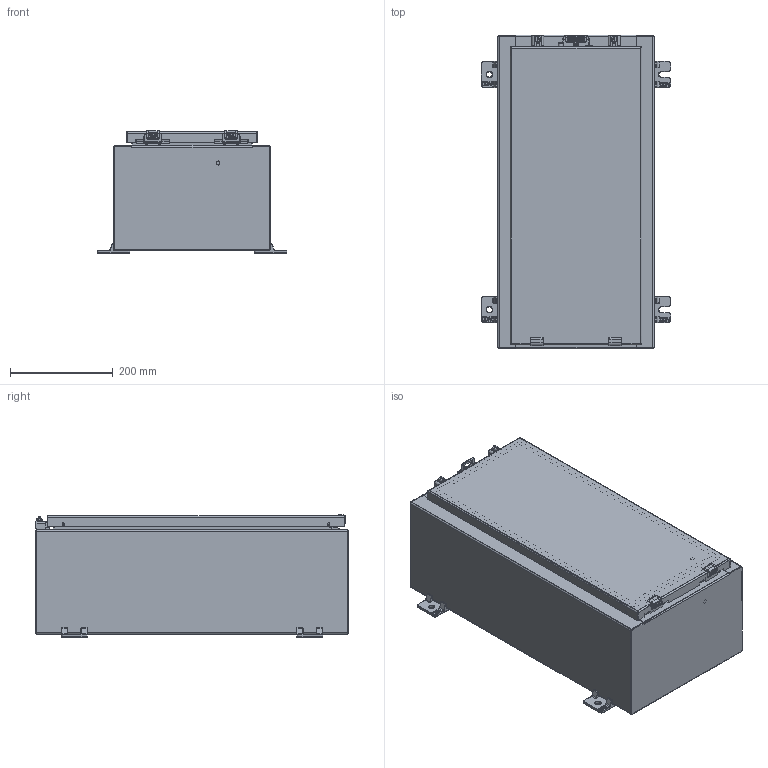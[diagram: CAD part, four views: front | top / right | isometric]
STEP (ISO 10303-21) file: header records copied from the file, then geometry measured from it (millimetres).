
FILE_DESCRIPTION((''),'2;1');
FILE_NAME('MODEL-310_ASM','2024-10-04T10:40:21',('richards'),('SAGINAW CONTROL & ENGINEERING'),'CREO PARAMETRIC BY PTC INC, 2021284','CREO PARAMETRIC BY PTC INC, 2021284','');
FILE_SCHEMA(('AUTOMOTIVE_DESIGN { 1 0 10303 214 1 1 1 1 }'));
Length unit declared in the file: inch
Products named in the file (34): MODEL-310-BDY; MODEL-310-RS; MODEL-310-LS; MODEL-310-DR; 100837; MODEL-310-DOOR-GASKET; 126391; 126391_ASM; 126393; 102483; 101226; 101376; 102140; 115117; MODEL-310-DOOR-ASSY_ASM; 128630; 100059; 128630_ASM; 100921; 128631; 128631_ASM; 101653; 121452; 120132_BASE; 120132_CLAMP; 120132_SCREW; 120132_SPRING; 120132_ASM; 100882; 120133; SUBPANEL; 100904; SUBPANEL-SUBASSEMBLY_ASM; MODEL-310_ASM
Assembly tree (60 placements, depth 4):
  MODEL-310_ASM
    MODEL-310-BDY
    MODEL-310-RS
    MODEL-310-LS
    MODEL-310-DOOR-ASSY_ASM
      MODEL-310-DR
      100837
      MODEL-310-DOOR-GASKET
      126391_ASM  x2
        126391
      126393  x2
      102483  x7
      101226  x2
      101376  x2
      102140  x2
      115117
    128630_ASM  x2
      128630
      100059
    100921  x4
    128631_ASM  x2
      128631
      100059
    100837
    101653  x4
    121452
    120132_ASM  x2
      120132_BASE
      120132_CLAMP
      120132_SCREW
      120132_SPRING
    100882  x3
    120133
    SUBPANEL-SUBASSEMBLY_ASM
      SUBPANEL
      100904  x4
Bounding box: 368.3 x 609.6 x 237.31 mm (x, y, z)
Volume: 2277892.6 mm3; surface area: 2084398.1 mm2
Topology: 60 solids, 60 shells, 4156 faces, 10553 edges, 6606 vertices
Faces by surface type: plane 1552, cylinder 1232, bspline 653, torus 498, cone 128, sphere 93
Entity records: 110309 total; most frequent: CARTESIAN_POINT 35415, ORIENTED_EDGE 11076, DIRECTION 10614, PRESENTATION_STYLE_ASSIGNMENT 5670, STYLED_ITEM 5670, CURVE_STYLE 5538, EDGE_CURVE 5538, AXIS2_PLACEMENT_3D 3948
